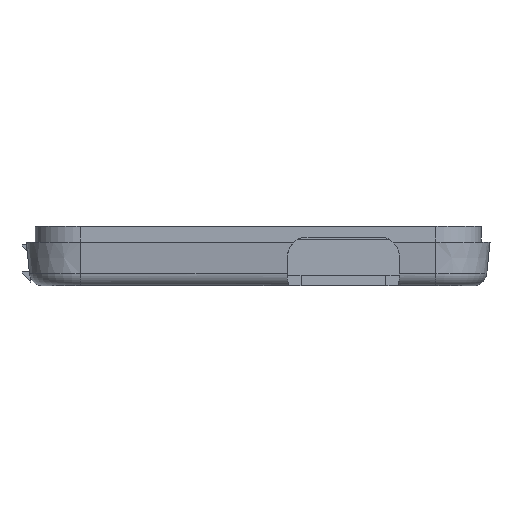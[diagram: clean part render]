
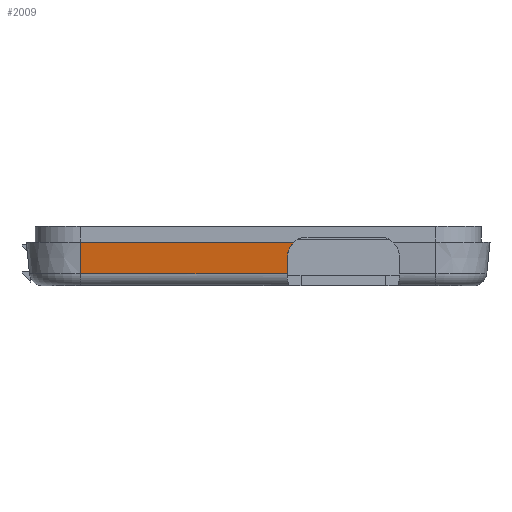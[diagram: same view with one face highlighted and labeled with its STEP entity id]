
A CAD part, front view. The second image highlights one B-rep face of the part: STEP entity #2009.
In plain terms, the highlighted planar face has unit normal (0, -0.995, -0.102).
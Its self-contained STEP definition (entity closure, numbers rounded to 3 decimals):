
#43 = CONICAL_SURFACE('',#44,6.1,0.102);
#44 = AXIS2_PLACEMENT_3D('',#45,#46,#47);
#45 = CARTESIAN_POINT('',(4.,-83.,0.));
#46 = DIRECTION('',(0.,0.,1.));
#47 = DIRECTION('',(1.,0.,0.));
#427 = PLANE('',#428);
#428 = AXIS2_PLACEMENT_3D('',#429,#430,#431);
#429 = CARTESIAN_POINT('',(24.,-43.5,0.));
#430 = DIRECTION('',(0.,0.,-1.));
#431 = DIRECTION('',(1.,0.,0.));
#442 = EDGE_CURVE('',#443,#445,#447,.T.);
#443 = VERTEX_POINT('',#444);
#444 = CARTESIAN_POINT('',(4.,-89.1,0.));
#445 = VERTEX_POINT('',#446);
#446 = CARTESIAN_POINT('',(4.,-88.738,-3.547));
#447 = SURFACE_CURVE('',#448,(#452,#458),.PCURVE_S1.);
#448 = LINE('',#449,#450);
#449 = CARTESIAN_POINT('',(4.,-89.1,0.));
#450 = VECTOR('',#451,1.);
#451 = DIRECTION('',(0.,0.102,-0.995));
#452 = PCURVE('',#43,#453);
#453 = DEFINITIONAL_REPRESENTATION('',(#454),#457);
#454 = B_SPLINE_CURVE_WITH_KNOTS('',1,(#455,#456),.UNSPECIFIED.,.F.,.F.,
  (2,2),(0.,4.92),.PIECEWISE_BEZIER_KNOTS.);
#455 = CARTESIAN_POINT('',(-1.571,0.));
#456 = CARTESIAN_POINT('',(-1.571,-4.895));
#457 = ( GEOMETRIC_REPRESENTATION_CONTEXT(2) 
PARAMETRIC_REPRESENTATION_CONTEXT() REPRESENTATION_CONTEXT('2D SPACE',''
  ) );
#458 = PCURVE('',#459,#464);
#459 = PLANE('',#460);
#460 = AXIS2_PLACEMENT_3D('',#461,#462,#463);
#461 = CARTESIAN_POINT('',(24.,-89.1,0.));
#462 = DIRECTION('',(-0.,0.995,0.102));
#463 = DIRECTION('',(0.,0.102,-0.995));
#464 = DEFINITIONAL_REPRESENTATION('',(#465),#468);
#465 = B_SPLINE_CURVE_WITH_KNOTS('',1,(#466,#467),.UNSPECIFIED.,.F.,.F.,
  (2,2),(0.,4.92),.PIECEWISE_BEZIER_KNOTS.);
#466 = CARTESIAN_POINT('',(0.,20.));
#467 = CARTESIAN_POINT('',(4.92,20.));
#468 = ( GEOMETRIC_REPRESENTATION_CONTEXT(2) 
PARAMETRIC_REPRESENTATION_CONTEXT() REPRESENTATION_CONTEXT('2D SPACE',''
  ) );
#984 = VERTEX_POINT('',#985);
#985 = CARTESIAN_POINT('',(28.006,-89.1,0.));
#998 = CYLINDRICAL_SURFACE('',#999,2.2);
#999 = AXIS2_PLACEMENT_3D('',#1000,#1001,#1002);
#1000 = CARTESIAN_POINT('',(29.5,-88.2,-1.615));
#1001 = DIRECTION('',(0.,-1.,0.));
#1002 = DIRECTION('',(1.,0.,0.));
#1009 = EDGE_CURVE('',#443,#984,#1010,.T.);
#1010 = SURFACE_CURVE('',#1011,(#1015,#1022),.PCURVE_S1.);
#1011 = LINE('',#1012,#1013);
#1012 = CARTESIAN_POINT('',(24.,-89.1,0.));
#1013 = VECTOR('',#1014,1.);
#1014 = DIRECTION('',(1.,0.,0.));
#1015 = PCURVE('',#427,#1016);
#1016 = DEFINITIONAL_REPRESENTATION('',(#1017),#1021);
#1017 = LINE('',#1018,#1019);
#1018 = CARTESIAN_POINT('',(0.,45.6));
#1019 = VECTOR('',#1020,1.);
#1020 = DIRECTION('',(1.,0.));
#1021 = ( GEOMETRIC_REPRESENTATION_CONTEXT(2) 
PARAMETRIC_REPRESENTATION_CONTEXT() REPRESENTATION_CONTEXT('2D SPACE',''
  ) );
#1022 = PCURVE('',#459,#1023);
#1023 = DEFINITIONAL_REPRESENTATION('',(#1024),#1028);
#1024 = LINE('',#1025,#1026);
#1025 = CARTESIAN_POINT('',(0.,0.));
#1026 = VECTOR('',#1027,1.);
#1027 = DIRECTION('',(-0.,-1.));
#1028 = ( GEOMETRIC_REPRESENTATION_CONTEXT(2) 
PARAMETRIC_REPRESENTATION_CONTEXT() REPRESENTATION_CONTEXT('2D SPACE',''
  ) );
#2009 = ADVANCED_FACE('',(#2010),#459,.F.);
#2010 = FACE_BOUND('',#2011,.F.);
#2011 = EDGE_LOOP('',(#2012,#2040,#2066,#2067,#2068));
#2012 = ORIENTED_EDGE('',*,*,#2013,.T.);
#2013 = EDGE_CURVE('',#2014,#2016,#2018,.T.);
#2014 = VERTEX_POINT('',#2015);
#2015 = CARTESIAN_POINT('',(27.3,-88.935,-1.615));
#2016 = VERTEX_POINT('',#2017);
#2017 = CARTESIAN_POINT('',(27.3,-88.738,-3.547));
#2018 = SURFACE_CURVE('',#2019,(#2023,#2029),.PCURVE_S1.);
#2019 = LINE('',#2020,#2021);
#2020 = CARTESIAN_POINT('',(27.3,-88.892,-2.032));
#2021 = VECTOR('',#2022,1.);
#2022 = DIRECTION('',(0.,0.102,-0.995));
#2023 = PCURVE('',#459,#2024);
#2024 = DEFINITIONAL_REPRESENTATION('',(#2025),#2028);
#2025 = B_SPLINE_CURVE_WITH_KNOTS('',1,(#2026,#2027),.UNSPECIFIED.,.F.,
  .F.,(2,2),(-0.419,1.523),.PIECEWISE_BEZIER_KNOTS.);
#2026 = CARTESIAN_POINT('',(1.623,-3.3));
#2027 = CARTESIAN_POINT('',(3.566,-3.3));
#2028 = ( GEOMETRIC_REPRESENTATION_CONTEXT(2) 
PARAMETRIC_REPRESENTATION_CONTEXT() REPRESENTATION_CONTEXT('2D SPACE',''
  ) );
#2029 = PCURVE('',#2030,#2035);
#2030 = PLANE('',#2031);
#2031 = AXIS2_PLACEMENT_3D('',#2032,#2033,#2034);
#2032 = CARTESIAN_POINT('',(27.3,-88.2,-4.015));
#2033 = DIRECTION('',(1.,0.,0.));
#2034 = DIRECTION('',(0.,0.,1.));
#2035 = DEFINITIONAL_REPRESENTATION('',(#2036),#2039);
#2036 = B_SPLINE_CURVE_WITH_KNOTS('',1,(#2037,#2038),.UNSPECIFIED.,.F.,
  .F.,(2,2),(-0.419,1.523),.PIECEWISE_BEZIER_KNOTS.);
#2037 = CARTESIAN_POINT('',(2.4,0.735));
#2038 = CARTESIAN_POINT('',(0.468,0.538));
#2039 = ( GEOMETRIC_REPRESENTATION_CONTEXT(2) 
PARAMETRIC_REPRESENTATION_CONTEXT() REPRESENTATION_CONTEXT('2D SPACE',''
  ) );
#2040 = ORIENTED_EDGE('',*,*,#2041,.T.);
#2041 = EDGE_CURVE('',#2016,#445,#2042,.T.);
#2042 = SURFACE_CURVE('',#2043,(#2047,#2054),.PCURVE_S1.);
#2043 = LINE('',#2044,#2045);
#2044 = CARTESIAN_POINT('',(44.,-88.738,-3.547));
#2045 = VECTOR('',#2046,1.);
#2046 = DIRECTION('',(-1.,-0.,0.));
#2047 = PCURVE('',#459,#2048);
#2048 = DEFINITIONAL_REPRESENTATION('',(#2049),#2053);
#2049 = LINE('',#2050,#2051);
#2050 = CARTESIAN_POINT('',(3.566,-20.));
#2051 = VECTOR('',#2052,1.);
#2052 = DIRECTION('',(-0.,1.));
#2053 = ( GEOMETRIC_REPRESENTATION_CONTEXT(2) 
PARAMETRIC_REPRESENTATION_CONTEXT() REPRESENTATION_CONTEXT('2D SPACE',''
  ) );
#2054 = PCURVE('',#2055,#2060);
#2055 = CYLINDRICAL_SURFACE('',#2056,1.5);
#2056 = AXIS2_PLACEMENT_3D('',#2057,#2058,#2059);
#2057 = CARTESIAN_POINT('',(44.,-87.245,-3.395));
#2058 = DIRECTION('',(-1.,-0.,0.));
#2059 = DIRECTION('',(0.,-0.995,-0.102));
#2060 = DEFINITIONAL_REPRESENTATION('',(#2061),#2065);
#2061 = LINE('',#2062,#2063);
#2062 = CARTESIAN_POINT('',(-0.,0.));
#2063 = VECTOR('',#2064,1.);
#2064 = DIRECTION('',(-0.,1.));
#2065 = ( GEOMETRIC_REPRESENTATION_CONTEXT(2) 
PARAMETRIC_REPRESENTATION_CONTEXT() REPRESENTATION_CONTEXT('2D SPACE',''
  ) );
#2066 = ORIENTED_EDGE('',*,*,#442,.F.);
#2067 = ORIENTED_EDGE('',*,*,#1009,.T.);
#2068 = ORIENTED_EDGE('',*,*,#2069,.F.);
#2069 = EDGE_CURVE('',#2014,#984,#2070,.T.);
#2070 = SURFACE_CURVE('',#2071,(#2076,#2083),.PCURVE_S1.);
#2071 = ELLIPSE('',#2072,2.211,2.2);
#2072 = AXIS2_PLACEMENT_3D('',#2073,#2074,#2075);
#2073 = CARTESIAN_POINT('',(29.5,-88.935,-1.615));
#2074 = DIRECTION('',(-0.,0.995,0.102));
#2075 = DIRECTION('',(0.,-0.102,0.995));
#2076 = PCURVE('',#459,#2077);
#2077 = DEFINITIONAL_REPRESENTATION('',(#2078),#2082);
#2078 = ELLIPSE('',#2079,2.211,2.2);
#2079 = AXIS2_PLACEMENT_2D('',#2080,#2081);
#2080 = CARTESIAN_POINT('',(1.623,-5.5));
#2081 = DIRECTION('',(-1.,0.));
#2082 = ( GEOMETRIC_REPRESENTATION_CONTEXT(2) 
PARAMETRIC_REPRESENTATION_CONTEXT() REPRESENTATION_CONTEXT('2D SPACE',''
  ) );
#2083 = PCURVE('',#998,#2084);
#2084 = DEFINITIONAL_REPRESENTATION('',(#2085),#2093);
#2085 = B_SPLINE_CURVE_WITH_KNOTS('',6,(#2086,#2087,#2088,#2089,#2090,
    #2091,#2092),.UNSPECIFIED.,.F.,.F.,(7,7),(4.712,
    5.822),.PIECEWISE_BEZIER_KNOTS.);
#2086 = CARTESIAN_POINT('',(3.142,0.735));
#2087 = CARTESIAN_POINT('',(2.957,0.777));
#2088 = CARTESIAN_POINT('',(2.772,0.818));
#2089 = CARTESIAN_POINT('',(2.587,0.857));
#2090 = CARTESIAN_POINT('',(2.402,0.891));
#2091 = CARTESIAN_POINT('',(2.217,0.918));
#2092 = CARTESIAN_POINT('',(2.032,0.936));
#2093 = ( GEOMETRIC_REPRESENTATION_CONTEXT(2) 
PARAMETRIC_REPRESENTATION_CONTEXT() REPRESENTATION_CONTEXT('2D SPACE',''
  ) );
